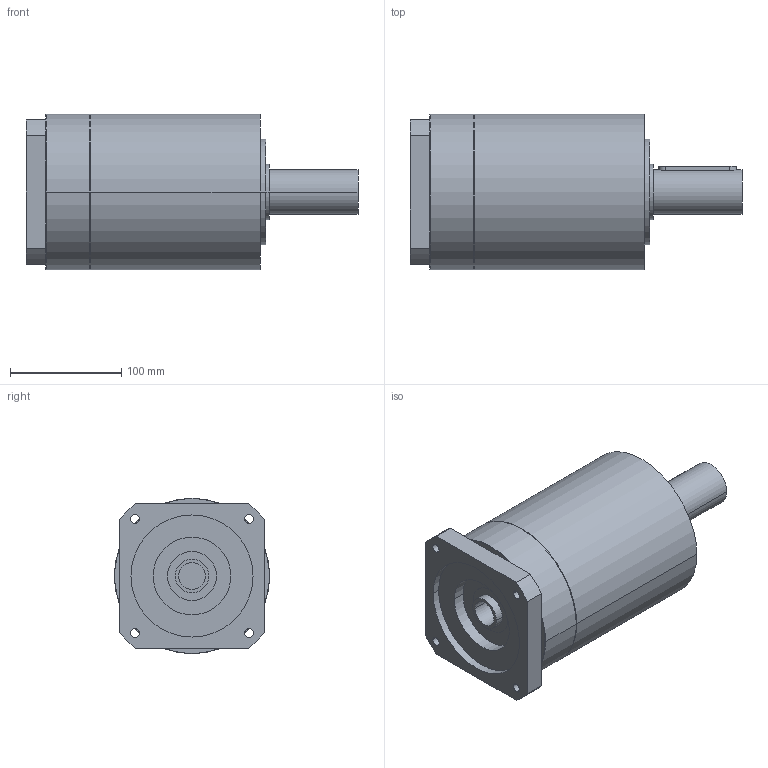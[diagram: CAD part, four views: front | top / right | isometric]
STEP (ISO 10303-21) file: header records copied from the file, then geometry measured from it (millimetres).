
FILE_DESCRIPTION(('CoCreate Modeling STEP Export'),'2;1');
FILE_NAME('GPR150_ig-9-12-16-20-28-35_40_B14_24_P08.stp','2014-08-19T17:03:33',(''),(''),'CoCreate Modeling STEP processor for AP214 (Solid Model)','CoCreate Modeling 16.00C 25-Feb-2009 (C) Parametric Technology GmbH','');
FILE_SCHEMA(('AUTOMOTIVE_DESIGN { 1 0 10303 214 1 1 1 1 }'));
Length unit declared in the file: millimetre
Products named in the file (2): GPR150_ig-9-12-16-20-28-35_40_B14_24_P08
Assembly tree (1 placements, depth 2):
  GPR150_ig-9-12-16-20-28-35_40_B14_24_P08
    GPR150_ig-9-12-16-20-28-35_40_B14_24_P08
Bounding box: 299 x 140 x 140 mm (x, y, z)
Volume: 3267734.9 mm3; surface area: 157010.4 mm2
Topology: 1 solids, 1 shells, 84 faces, 222 edges, 148 vertices
Faces by surface type: cylinder 44, plane 34, cone 6
Entity records: 2205 total; most frequent: ORIENTED_EDGE 440, CARTESIAN_POINT 416, DIRECTION 288, EDGE_CURVE 220, VERTEX_POINT 148, AXIS2_PLACEMENT_3D 108, EDGE_LOOP 102, FACE_OUTER_BOUND 84
